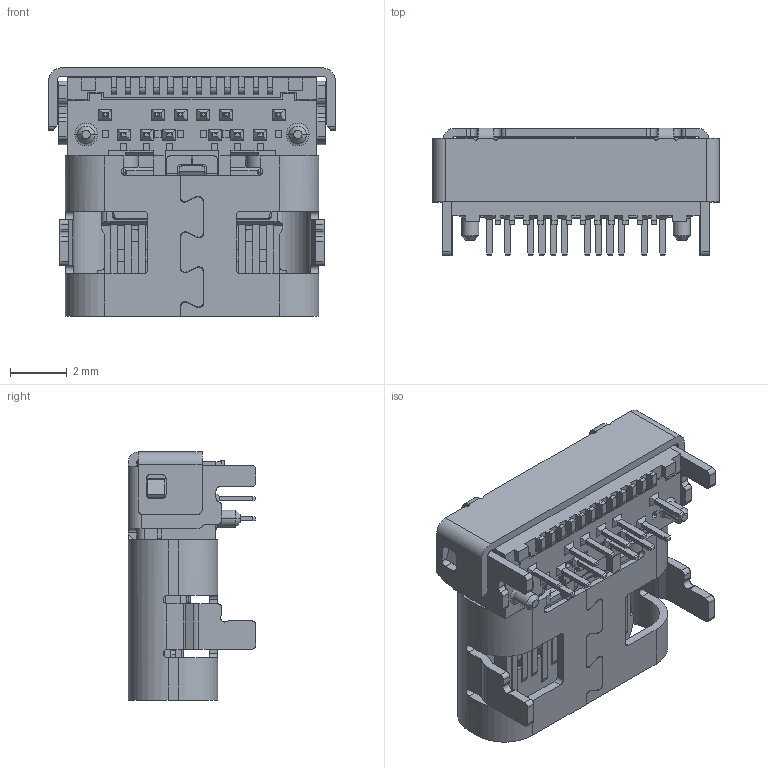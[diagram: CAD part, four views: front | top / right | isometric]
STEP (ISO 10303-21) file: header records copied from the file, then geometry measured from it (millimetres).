
FILE_DESCRIPTION((''),'2;1');
FILE_NAME('1111','2019-10-25T',('Administrator'),(''),'PRO/ENGINEER BY PARAMETRIC TECHNOLOGY CORPORATION, 2014000','PRO/ENGINEER BY PARAMETRIC TECHNOLOGY CORPORATION, 2014000','');
FILE_SCHEMA(('CONFIG_CONTROL_DESIGN'));
Products named in the file (1): 1111
Bounding box: 10.1 x 4.49 x 8.74 mm (x, y, z)
Volume: 150.5 mm3; surface area: 811.9 mm2
Topology: 1 solids, 30 shells, 2093 faces, 5858 edges, 3774 vertices
Faces by surface type: plane 1629, cylinder 400, cone 58, torus 4, bspline 2
Entity records: 77522 total; most frequent: CARTESIAN_POINT 12242, ORIENTED_EDGE 11716, DIRECTION 10884, EDGE_CURVE 5858, VECTOR 4816, LINE 4816, VERTEX_POINT 3774, AXIS2_PLACEMENT_3D 3034
